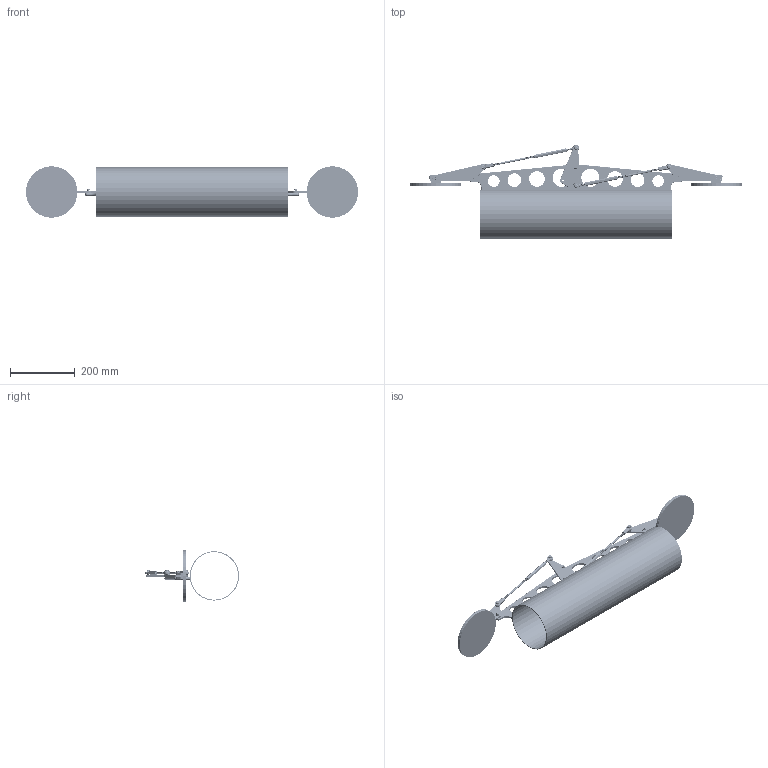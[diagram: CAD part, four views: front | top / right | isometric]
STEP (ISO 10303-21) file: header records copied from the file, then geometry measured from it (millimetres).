
FILE_DESCRIPTION (( 'STEP AP214' ), '1' );
FILE_NAME ('200-10011-1.0 Open.STEP', '2025-10-17T20:30:18', ( '' ), ( '' ), 'SwSTEP 2.0', 'SolidWorks 2024', '' );
FILE_SCHEMA (( 'AUTOMOTIVE_DESIGN' ));
Length unit declared in the file: inch
Products named in the file (19): 220-10045-1.0; 90298A218_18-8 Stainless Steel Shoulder Screw_90298A218; 220-10043-1.0; 93996A845_18-8 Stainless Steel Thread-Locking Precision Shoulder Screw_93996A845; 220-10044-1.0; 220-10046-1.0; 220-10040-1.0; 93996A842_18-8 Stainless Steel Thread-Locking Precision Shoulder Screw_93996A842; 6516K375_Connecting Rod_6516K375; 92210A535_18-8 Stainless Steel Hex Drive Flat Head Screw_92210A535; 210-10007-1.0; 2705T79_Light Duty Dry-Running Flanged Sleeve Bearing_2705T79; 8416N77_18-8 Stainless Steel Turnbuckle-Style Connecting Rod_8416N77; 200-10011-1.0 Open; 59915K482_Corrosion-Resistant Ball Joint Rod End_59915K482; 59915K222_Corrosion-Resistant Ball Joint Rod End_59915K222; 220-10042-1.0; 2795T203_Light Duty Dry-Running Thrust Bearing_2795T203; 220-10041-1.0
Assembly tree (39 placements, depth 3):
  200-10011-1.0 Open
    220-10040-1.0
    220-10041-1.0
    220-10042-1.0
    220-10043-1.0  x2
    210-10007-1.0  x2
      220-10044-1.0
      220-10045-1.0
      220-10046-1.0
      92210A535_18-8 Stainless Steel Hex Drive Flat Head Screw_92210A535
    2705T79_Light Duty Dry-Running Flanged Sleeve Bearing_2705T79  x3
    2795T203_Light Duty Dry-Running Thrust Bearing_2795T203  x7
    90298A218_18-8 Stainless Steel Shoulder Screw_90298A218  x2
    59915K482_Corrosion-Resistant Ball Joint Rod End_59915K482  x2
    59915K222_Corrosion-Resistant Ball Joint Rod End_59915K222  x2
    6516K375_Connecting Rod_6516K375  x2
    8416N77_18-8 Stainless Steel Turnbuckle-Style Connecting Rod_8416N77  x2
    93996A845_18-8 Stainless Steel Thread-Locking Precision Shoulder Screw_93996A845  x4
    93996A842_18-8 Stainless Steel Thread-Locking Precision Shoulder Screw_93996A842  x3
Bounding box: 1025.61 x 290.34 x 158.75 mm (x, y, z)
Volume: 1456605.7 mm3; surface area: 877377.6 mm2
Topology: 46 solids, 46 shells, 2616 faces, 6873 edges, 4396 vertices
Faces by surface type: cylinder 1134, plane 608, cone 517, bspline 277, torus 56, sphere 24
Entity records: 81787 total; most frequent: CARTESIAN_POINT 54722, ORIENTED_EDGE 6086, DIRECTION 4587, EDGE_CURVE 3043, VERTEX_POINT 1946, AXIS2_PLACEMENT_3D 1728, EDGE_LOOP 1237, ADVANCED_FACE 1155
